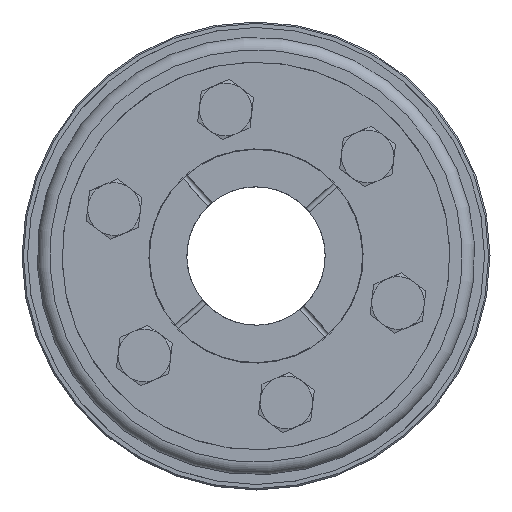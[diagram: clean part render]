
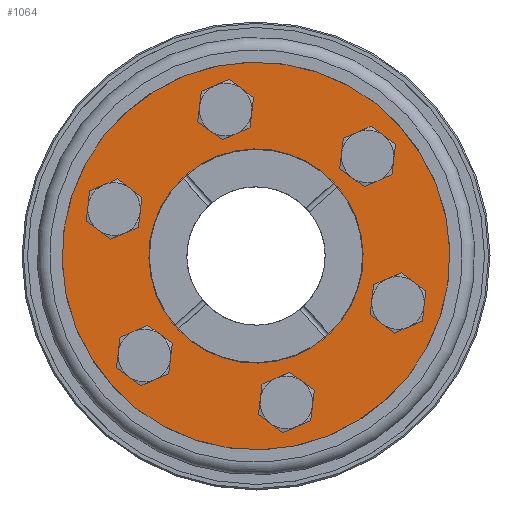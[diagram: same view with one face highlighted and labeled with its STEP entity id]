
A CAD part, left-side view. The second image highlights one B-rep face of the part: STEP entity #1064.
In plain terms, the highlighted planar face has unit normal (-1, 0, 0) as drawn and (0, -1, 0) by its records, which use the part's own axes.
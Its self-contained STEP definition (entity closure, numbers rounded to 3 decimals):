
#1064 = ADVANCED_FACE( '', ( #2103, #2104, #2105, #2106, #2107, #2108, #2109, #2110 ), #2111, .F. );
#2103 = FACE_BOUND( '', #3414, .T. );
#2104 = FACE_BOUND( '', #3415, .T. );
#2105 = FACE_BOUND( '', #3416, .T. );
#2106 = FACE_BOUND( '', #3417, .T. );
#2107 = FACE_BOUND( '', #3418, .T. );
#2108 = FACE_BOUND( '', #3419, .T. );
#2109 = FACE_BOUND( '', #3420, .T. );
#2110 = FACE_OUTER_BOUND( '', #3421, .T. );
#2111 = PLANE( '', #3422 );
#3414 = EDGE_LOOP( '', ( #4777 ) );
#3415 = EDGE_LOOP( '', ( #4778 ) );
#3416 = EDGE_LOOP( '', ( #4779 ) );
#3417 = EDGE_LOOP( '', ( #4780 ) );
#3418 = EDGE_LOOP( '', ( #4781 ) );
#3419 = EDGE_LOOP( '', ( #4782 ) );
#3420 = EDGE_LOOP( '', ( #4783 ) );
#3421 = EDGE_LOOP( '', ( #4784 ) );
#3422 = AXIS2_PLACEMENT_3D( '', #4785, #4786, #4787 );
#4777 = ORIENTED_EDGE( '', *, *, #6621, .F. );
#4778 = ORIENTED_EDGE( '', *, *, #6622, .F. );
#4779 = ORIENTED_EDGE( '', *, *, #6604, .F. );
#4780 = ORIENTED_EDGE( '', *, *, #6623, .F. );
#4781 = ORIENTED_EDGE( '', *, *, #6371, .F. );
#4782 = ORIENTED_EDGE( '', *, *, #6400, .F. );
#4783 = ORIENTED_EDGE( '', *, *, #6357, .F. );
#4784 = ORIENTED_EDGE( '', *, *, #6624, .T. );
#4785 = CARTESIAN_POINT( '', ( 0., 0., 70. ) );
#4786 = DIRECTION( '', ( 0., 1., 0. ) );
#4787 = DIRECTION( '', ( 0., 0., 1. ) );
#6357 = EDGE_CURVE( '', #7096, #7096, #7097, .T. );
#6371 = EDGE_CURVE( '', #7121, #7121, #7122, .T. );
#6400 = EDGE_CURVE( '', #7170, #7170, #7171, .T. );
#6604 = EDGE_CURVE( '', #7519, #7519, #7520, .T. );
#6621 = EDGE_CURVE( '', #7544, #7544, #7545, .T. );
#6622 = EDGE_CURVE( '', #7546, #7546, #7547, .T. );
#6623 = EDGE_CURVE( '', #7548, #7548, #7549, .T. );
#6624 = EDGE_CURVE( '', #7550, #7550, #7551, .T. );
#7096 = VERTEX_POINT( '', #8189 );
#7097 = CIRCLE( '', #8190, 38.5 );
#7121 = VERTEX_POINT( '', #8214 );
#7122 = CIRCLE( '', #8215, 7. );
#7170 = VERTEX_POINT( '', #8324 );
#7171 = CIRCLE( '', #8325, 7. );
#7519 = VERTEX_POINT( '', #9101 );
#7520 = CIRCLE( '', #9102, 7. );
#7544 = VERTEX_POINT( '', #9126 );
#7545 = CIRCLE( '', #9127, 7. );
#7546 = VERTEX_POINT( '', #9128 );
#7547 = CIRCLE( '', #9129, 7. );
#7548 = VERTEX_POINT( '', #9130 );
#7549 = CIRCLE( '', #9131, 7. );
#7550 = VERTEX_POINT( '', #9132 );
#7551 = CIRCLE( '', #9133, 70. );
#8189 = CARTESIAN_POINT( '', ( 0., 0., -38.5 ) );
#8190 = AXIS2_PLACEMENT_3D( '', #10082, #10083, #10084 );
#8214 = CARTESIAN_POINT( '', ( 50.265, 0., 20.938 ) );
#8215 = AXIS2_PLACEMENT_3D( '', #10115, #10116, #10117 );
#8324 = CARTESIAN_POINT( '', ( 7., 0., 54. ) );
#8325 = AXIS2_PLACEMENT_3D( '', #10168, #10169, #10170 );
#9101 = CARTESIAN_POINT( '', ( -7., 0., -54. ) );
#9102 = AXIS2_PLACEMENT_3D( '', #10473, #10474, #10475 );
#9126 = CARTESIAN_POINT( '', ( -43.265, 0., 33.062 ) );
#9127 = AXIS2_PLACEMENT_3D( '', #10500, #10501, #10502 );
#9128 = CARTESIAN_POINT( '', ( -50.265, 0., -20.938 ) );
#9129 = AXIS2_PLACEMENT_3D( '', #10503, #10504, #10505 );
#9130 = CARTESIAN_POINT( '', ( 43.265, 0., -33.062 ) );
#9131 = AXIS2_PLACEMENT_3D( '', #10506, #10507, #10508 );
#9132 = CARTESIAN_POINT( '', ( 0., 0., -70. ) );
#9133 = AXIS2_PLACEMENT_3D( '', #10509, #10510, #10511 );
#10082 = CARTESIAN_POINT( '', ( 0., 0., 0. ) );
#10083 = DIRECTION( '', ( 0., -1., 0. ) );
#10084 = DIRECTION( '', ( 0., 0., -1. ) );
#10115 = CARTESIAN_POINT( '', ( 46.765, 0., 27. ) );
#10116 = DIRECTION( '', ( 0., -1., 0. ) );
#10117 = DIRECTION( '', ( 0.5, 0., -0.866 ) );
#10168 = CARTESIAN_POINT( '', ( 0., 0., 54. ) );
#10169 = DIRECTION( '', ( 0., -1., 0. ) );
#10170 = DIRECTION( '', ( 1., 0., 0. ) );
#10473 = CARTESIAN_POINT( '', ( 0., 0., -54. ) );
#10474 = DIRECTION( '', ( 0., -1., 0. ) );
#10475 = DIRECTION( '', ( -1., 0., 0. ) );
#10500 = CARTESIAN_POINT( '', ( -46.765, 0., 27. ) );
#10501 = DIRECTION( '', ( 0., -1., 0. ) );
#10502 = DIRECTION( '', ( 0.5, 0., 0.866 ) );
#10503 = CARTESIAN_POINT( '', ( -46.765, 0., -27. ) );
#10504 = DIRECTION( '', ( 0., -1., 0. ) );
#10505 = DIRECTION( '', ( -0.5, 0., 0.866 ) );
#10506 = CARTESIAN_POINT( '', ( 46.765, 0., -27. ) );
#10507 = DIRECTION( '', ( 0., -1., 0. ) );
#10508 = DIRECTION( '', ( -0.5, 0., -0.866 ) );
#10509 = CARTESIAN_POINT( '', ( 0., 0., 0. ) );
#10510 = DIRECTION( '', ( 0., -1., 0. ) );
#10511 = DIRECTION( '', ( 0., 0., -1. ) );
